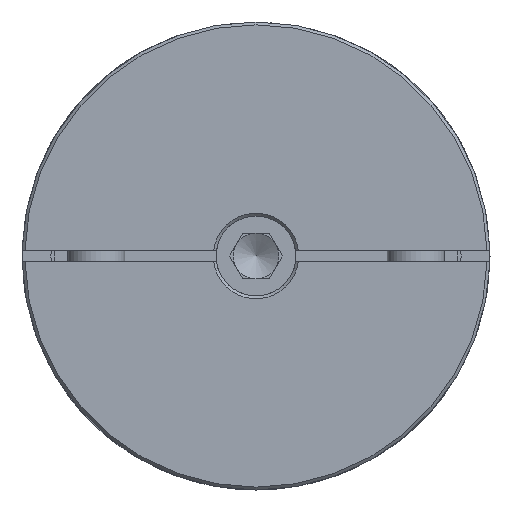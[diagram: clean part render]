
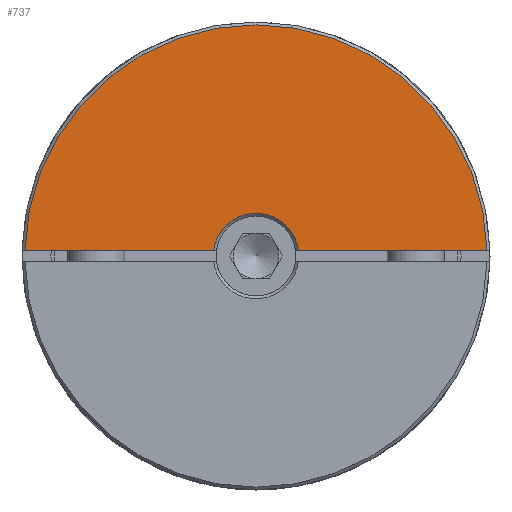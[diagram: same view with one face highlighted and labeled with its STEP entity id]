
A CAD part, left-side view. The second image highlights one B-rep face of the part: STEP entity #737.
In plain terms, the highlighted planar face has unit normal (-1, 0, 0) as drawn and (1, 0, 0) by its records, which use the part's own axes.
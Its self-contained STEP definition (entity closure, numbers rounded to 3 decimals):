
#737 = ADVANCED_FACE( '', ( #1109 ), #1110, .T. );
#1109 = FACE_OUTER_BOUND( '', #1335, .T. );
#1110 = PLANE( '', #1336 );
#1335 = EDGE_LOOP( '', ( #1634, #1635, #1636, #1637 ) );
#1336 = AXIS2_PLACEMENT_3D( '', #1638, #1639, #1640 );
#1634 = ORIENTED_EDGE( '', *, *, #2087, .F. );
#1635 = ORIENTED_EDGE( '', *, *, #2074, .T. );
#1636 = ORIENTED_EDGE( '', *, *, #2088, .F. );
#1637 = ORIENTED_EDGE( '', *, *, #2072, .T. );
#1638 = CARTESIAN_POINT( '', ( 36., 0., 41. ) );
#1639 = DIRECTION( '', ( 1., 0., 0. ) );
#1640 = DIRECTION( '', ( 0., 0., -1. ) );
#2072 = EDGE_CURVE( '', #2315, #2319, #2321, .F. );
#2074 = EDGE_CURVE( '', #2325, #2322, #2326, .T. );
#2087 = EDGE_CURVE( '', #2325, #2319, #2349, .T. );
#2088 = EDGE_CURVE( '', #2315, #2322, #2350, .T. );
#2315 = VERTEX_POINT( '', #2467 );
#2319 = VERTEX_POINT( '', #2474 );
#2321 = CIRCLE( '', #2479, 7.5 );
#2322 = VERTEX_POINT( '', #2480 );
#2325 = VERTEX_POINT( '', #2486 );
#2326 = CIRCLE( '', #2487, 40.5 );
#2349 = LINE( '', #2703, #2704 );
#2350 = LINE( '', #2705, #2706 );
#2467 = CARTESIAN_POINT( '', ( 36., -7.433, 1. ) );
#2474 = CARTESIAN_POINT( '', ( 36., 7.433, 1. ) );
#2479 = AXIS2_PLACEMENT_3D( '', #3011, #3012, #3013 );
#2480 = CARTESIAN_POINT( '', ( 36., -40.488, 1. ) );
#2486 = CARTESIAN_POINT( '', ( 36., 40.488, 1. ) );
#2487 = AXIS2_PLACEMENT_3D( '', #3014, #3015, #3016 );
#2703 = CARTESIAN_POINT( '', ( 36., 0., 1. ) );
#2704 = VECTOR( '', #3040, 1000. );
#2705 = CARTESIAN_POINT( '', ( 36., 0., 1. ) );
#2706 = VECTOR( '', #3041, 1000. );
#3011 = CARTESIAN_POINT( '', ( 36., 0., 0. ) );
#3012 = DIRECTION( '', ( 1., 0., 0. ) );
#3013 = DIRECTION( '', ( 0., 0., -1. ) );
#3014 = CARTESIAN_POINT( '', ( 36., 0., 0. ) );
#3015 = DIRECTION( '', ( 1., 0., 0. ) );
#3016 = DIRECTION( '', ( 0., 0., -1. ) );
#3040 = DIRECTION( '', ( 0., -1., 0. ) );
#3041 = DIRECTION( '', ( 0., -1., 0. ) );
